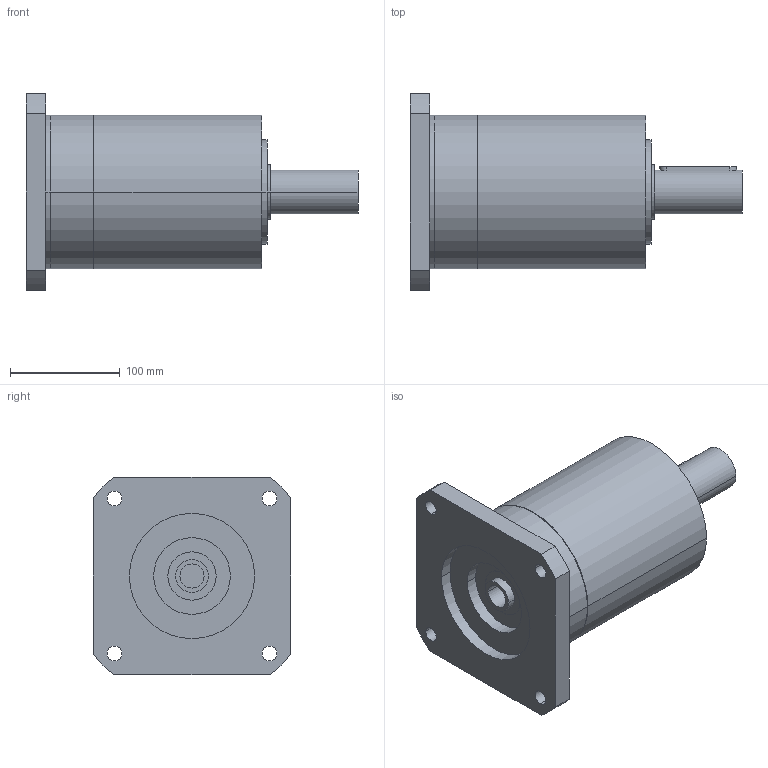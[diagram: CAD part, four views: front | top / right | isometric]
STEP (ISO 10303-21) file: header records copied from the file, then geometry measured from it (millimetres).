
FILE_DESCRIPTION(('CoCreate Modeling STEP Export'),'2;1');
FILE_NAME('GPR150_ig-9-12-16-20-28-35_40_B14_22_P09.stp','2014-08-26T15:30:39',(''),(''),'CoCreate Modeling STEP processor for AP214 (Solid Model)','CoCreate Modeling 16.00C 25-Feb-2009 (C) Parametric Technology GmbH','');
FILE_SCHEMA(('AUTOMOTIVE_DESIGN { 1 0 10303 214 1 1 1 1 }'));
Length unit declared in the file: millimetre
Products named in the file (2): GPR150_ig-9-12-16-20-28-35_40_B14_22_P09
Assembly tree (1 placements, depth 2):
  GPR150_ig-9-12-16-20-28-35_40_B14_22_P09
    GPR150_ig-9-12-16-20-28-35_40_B14_22_P09
Bounding box: 303 x 180 x 180 mm (x, y, z)
Volume: 3554346.4 mm3; surface area: 193083.8 mm2
Topology: 1 solids, 1 shells, 76 faces, 200 edges, 140 vertices
Faces by surface type: cylinder 46, plane 24, cone 6
Entity records: 2098 total; most frequent: CARTESIAN_POINT 405, ORIENTED_EDGE 396, DIRECTION 284, EDGE_CURVE 198, VERTEX_POINT 140, AXIS2_PLACEMENT_3D 107, EDGE_LOOP 100, FACE_OUTER_BOUND 76
